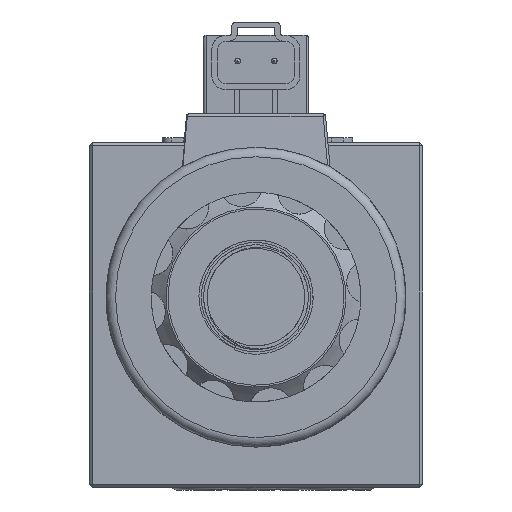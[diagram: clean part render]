
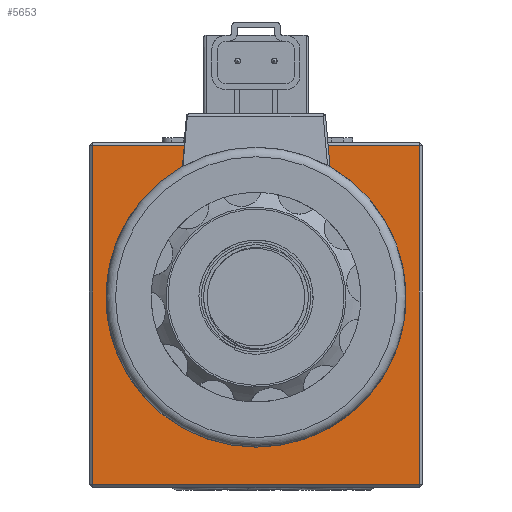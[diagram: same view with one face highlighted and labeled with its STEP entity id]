
A CAD part, left-side view. The second image highlights one B-rep face of the part: STEP entity #5653.
In plain terms, the highlighted planar face has unit normal (-1, 0, 0).
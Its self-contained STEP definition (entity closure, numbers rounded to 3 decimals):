
#3584=FACE_BOUND('',#8075,.T.);
#3585=FACE_BOUND('',#8076,.T.);
#3586=FACE_BOUND('',#8077,.T.);
#3587=FACE_BOUND('',#8078,.T.);
#4863=CIRCLE('',#20664,1.8);
#4864=CIRCLE('',#20665,1.8);
#4865=CIRCLE('',#20666,1.8);
#5653=ADVANCED_FACE('',(#3584,#3585,#3586,#3587),#6654,.T.);
#6654=PLANE('',#20667);
#8075=EDGE_LOOP('',(#10473));
#8076=EDGE_LOOP('',(#10474));
#8077=EDGE_LOOP('',(#10475));
#8078=EDGE_LOOP('',(#10476,#10477,#10478,#10479));
#10473=ORIENTED_EDGE('',*,*,#16155,.T.);
#10474=ORIENTED_EDGE('',*,*,#16156,.T.);
#10475=ORIENTED_EDGE('',*,*,#16157,.T.);
#10476=ORIENTED_EDGE('',*,*,#16158,.T.);
#10477=ORIENTED_EDGE('',*,*,#16159,.T.);
#10478=ORIENTED_EDGE('',*,*,#16160,.T.);
#10479=ORIENTED_EDGE('',*,*,#16161,.T.);
#14375=VERTEX_POINT('',#30179);
#14376=VERTEX_POINT('',#30181);
#14377=VERTEX_POINT('',#30183);
#14378=VERTEX_POINT('',#30185);
#14379=VERTEX_POINT('',#30186);
#14380=VERTEX_POINT('',#30188);
#14381=VERTEX_POINT('',#30190);
#16155=EDGE_CURVE('',#14375,#14375,#4863,.T.);
#16156=EDGE_CURVE('',#14376,#14376,#4864,.T.);
#16157=EDGE_CURVE('',#14377,#14377,#4865,.T.);
#16158=EDGE_CURVE('',#14378,#14379,#18180,.T.);
#16159=EDGE_CURVE('',#14379,#14380,#18181,.T.);
#16160=EDGE_CURVE('',#14380,#14381,#18182,.T.);
#16161=EDGE_CURVE('',#14381,#14378,#18183,.T.);
#18180=LINE('',#30184,#19446);
#18181=LINE('',#30187,#19447);
#18182=LINE('',#30189,#19448);
#18183=LINE('',#30191,#19449);
#19446=VECTOR('',#23365,1.);
#19447=VECTOR('',#23366,1.);
#19448=VECTOR('',#23367,1.);
#19449=VECTOR('',#23368,1.);
#20664=AXIS2_PLACEMENT_3D('',#30178,#23359,#23360);
#20665=AXIS2_PLACEMENT_3D('',#30180,#23361,#23362);
#20666=AXIS2_PLACEMENT_3D('',#30182,#23363,#23364);
#20667=AXIS2_PLACEMENT_3D('',#30192,#23369,#23370);
#23359=DIRECTION('',(1.,0.,0.));
#23360=DIRECTION('',(0.,0.,-1.));
#23361=DIRECTION('',(1.,0.,0.));
#23362=DIRECTION('',(0.,0.,-1.));
#23363=DIRECTION('',(1.,0.,0.));
#23364=DIRECTION('',(0.,0.,-1.));
#23365=DIRECTION('',(0.,0.,1.));
#23366=DIRECTION('',(0.,1.,0.));
#23367=DIRECTION('',(0.,0.,-1.));
#23368=DIRECTION('',(0.,-1.,0.));
#23369=DIRECTION('',(-1.,0.,0.));
#23370=DIRECTION('',(0.,0.,-1.));
#30178=CARTESIAN_POINT('',(0.,54.,-32.5));
#30179=CARTESIAN_POINT('',(0.,54.,-34.3));
#30180=CARTESIAN_POINT('',(0.,35.,-51.5));
#30181=CARTESIAN_POINT('',(0.,35.,-53.3));
#30182=CARTESIAN_POINT('',(0.,16.,-32.5));
#30183=CARTESIAN_POINT('',(0.,16.,-34.3));
#30184=CARTESIAN_POINT('',(0.,0.7,-72.5));
#30185=CARTESIAN_POINT('',(0.,0.7,-71.8));
#30186=CARTESIAN_POINT('',(0.,0.7,-0.7));
#30187=CARTESIAN_POINT('',(0.,70.,-0.7));
#30188=CARTESIAN_POINT('',(0.,69.3,-0.7));
#30189=CARTESIAN_POINT('',(0.,69.3,-72.5));
#30190=CARTESIAN_POINT('',(0.,69.3,-71.8));
#30191=CARTESIAN_POINT('',(0.,0.,-71.8));
#30192=CARTESIAN_POINT('',(0.,70.,-72.5));
